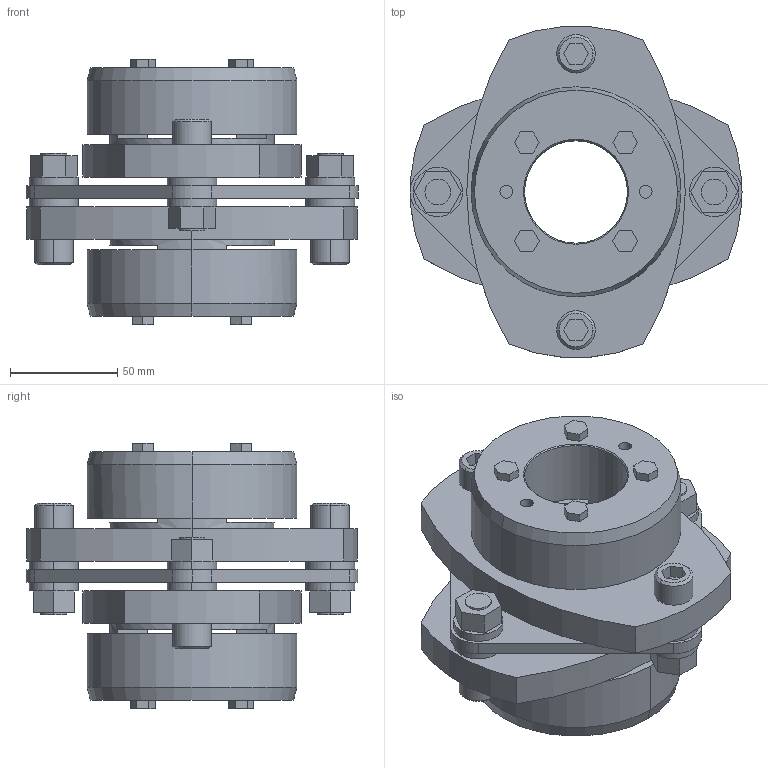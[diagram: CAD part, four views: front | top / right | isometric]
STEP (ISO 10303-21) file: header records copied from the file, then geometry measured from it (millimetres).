
FILE_DESCRIPTION((''),'2;1');
FILE_NAME('LCS-155T7-48×48.stp','2015-10-28T09:28:20',(''),(''),'AutoCAD STEP 2000i','AutoCAD 2000i',', , ');
FILE_SCHEMA(('CONFIG_CONTROL_DESIGN'));
Length unit declared in the file: millimetre
Products named in the file (7): LCS-155T7-50×50; 忣兜1; LC155T7-T050-1; LC155T7-T050; LC155T7-T045-1; LC155T7-T045; LCS155-ITA
Assembly tree (6 placements, depth 2):
  LCS-155T7-50×50
    忣兜1
    LC155T7-T050-1
    LC155T7-T050
    LC155T7-T045-1
    LC155T7-T045
    LCS155-ITA
Bounding box: 155 x 154.9 x 124 mm (x, y, z)
Volume: 817657.4 mm3; surface area: 144839.7 mm2
Topology: 1 solids, 1 shells, 246 faces, 606 edges, 398 vertices
Faces by surface type: plane 146, cylinder 80, cone 20
Entity records: 7499 total; most frequent: DIRECTION 1310, CARTESIAN_POINT 1257, ORIENTED_EDGE 1212, EDGE_CURVE 606, AXIS2_PLACEMENT_3D 451, VECTOR 408, LINE 408, VERTEX_POINT 398
